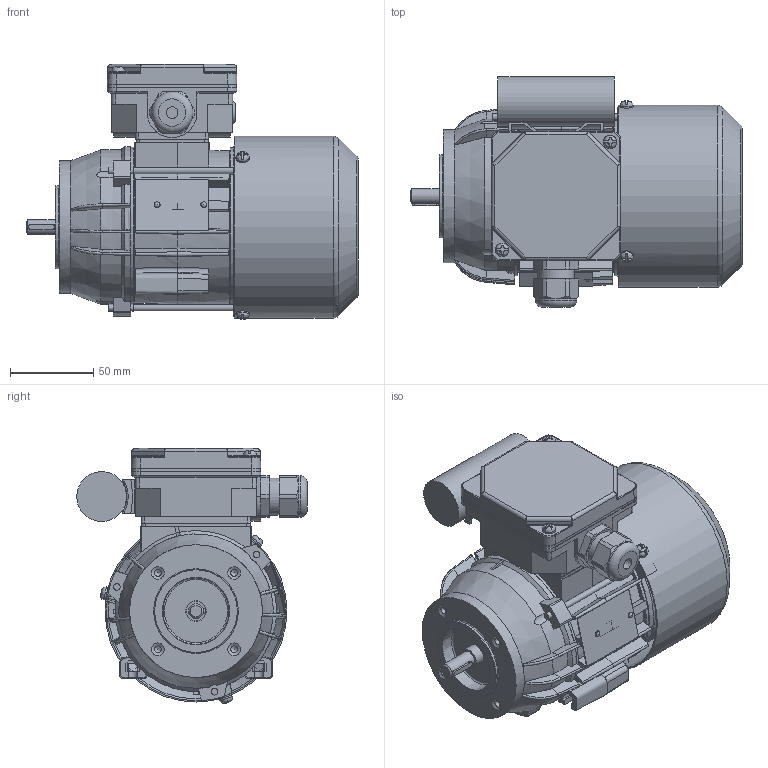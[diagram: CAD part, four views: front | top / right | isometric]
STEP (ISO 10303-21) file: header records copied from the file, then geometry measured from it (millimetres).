
FILE_DESCRIPTION( ( 'Unknown' ), '1' );
FILE_NAME( 'G:/Poczta Tk-1/STP/w.m.56/SEh56/SE(M)Kh56-C2.stp', 'Unknown', ( 'K. Szlosek' ), ( 'BESEL S.A.' ), 'PSStep 17.0.49', 'Unknown', ' ' );
FILE_SCHEMA( ( 'AUTOMOTIVE_DESIGN { 1 0 10303 214 1 1 1 1 }' ) );
Length unit declared in the file: millimetre
Products named in the file (31): Assem1; K4-2320 Uszczelka nr 1 Sh71,80; K3-2193 Tarcza łożyskowa P Sg56-2..; K2-0860 Pokrywka skrzynki zaciskowej; Wpust A3x3x16; K3-2977 Osłona przewietrznika Sg56; K4-2820 Uszczelka nr 2 Sh71,80; Wkręt samogwintujący M4x8; Wkręt samogwintujący M4x16; K2-0879 Przewietrznik Sg56; Nitokołek A 2x6; K3-9440 Podstawa  skrzynki zaciskowej SEhR71-D; K4-0898 Tulejka uszczelniająca; K3-1974 Uchwyt kondensatora (mały); Kondensator bb 8uF; K3-9987 kadłub ze stojanem Sh56-C; K3-9990 wał Sh56-C; K1-0533 Tarcza kołnierzowa B14_2 SKg56-..2; Dławnica M20x1,5; Łożysko 6201; Tabliczka znamionowa 32x44; Śruba ściągająca E_M4x85
Assembly tree (46 placements, depth 2):
  Assem1
    K4-2320 Uszczelka nr 1 Sh71,80
    K3-2193 Tarcza łożyskowa P Sg56-2..
    K2-0860 Pokrywka skrzynki zaciskowej
    Wpust A3x3x16
    K3-2977 Osłona przewietrznika Sg56
    K4-2820 Uszczelka nr 2 Sh71,80
    Wkręt samogwintujący M4x8  x3
    Wkręt samogwintujący M4x16  x2
    K2-0879 Przewietrznik Sg56
    Nitokołek A 2x6  x2
    K3-9440 Podstawa  skrzynki zaciskowej SEhR71-D
    K4-0898 Tulejka uszczelniająca
    K3-1974 Uchwyt kondensatora (mały)
    Kondensator bb 8uF
    K3-9987 kadłub ze stojanem Sh56-C
    K3-9990 wał Sh56-C
    K1-0533 Tarcza kołnierzowa B14_2 SKg56-..2
    Dławnica M20x1,5
    Łożysko 6201  x2
    Łożysko 6201  x2
    Łożysko 6201  x2
    Łożysko 6201  x2
    Łożysko 6201  x2
    Łożysko 6201  x2
    Łożysko 6201  x2
    Łożysko 6201  x2
    Łożysko 6201  x2
    Łożysko 6201  x2
    Tabliczka znamionowa 32x44
    Śruba ściągająca E_M4x85  x3
Bounding box: 200 x 138.82 x 153.72 mm (x, y, z)
Volume: 450014.7 mm3; surface area: 311603.4 mm2
Topology: 46 solids, 62 shells, 1833 faces, 4960 edges, 3210 vertices
Faces by surface type: plane 951, cylinder 522, cone 132, torus 100, bspline 94, sphere 34
Full cylindrical faces by diameter (mm): 2 x2, 2.4 x2, 3 x1, 3.242 x3, 3.5 x2, 3.7 x10, 4 x8, 4.134 x4, 4.5 x4, 4.6 x1, 4.8 x4, 5 x4, 6.5 x1, 7 x4, 8 x6, 9 x1, 10 x2, 10.9 x1, 11 x1, 11.5 x1, 11.8 x2, 12 x4, 12.4 x2, 15.5 x1, 16 x1, 16.1 x1, 17 x2, 18.38 x1, 18.5 x1, 18.52 x4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
Entity records: 74987 total; most frequent: CARTESIAN_POINT 20695, ORIENTED_EDGE 8532, DIRECTION 8460, EDGE_CURVE 4266, AXIS2_PLACEMENT_3D 3153, VERTEX_POINT 2900, LINE 2154, VECTOR 2154
